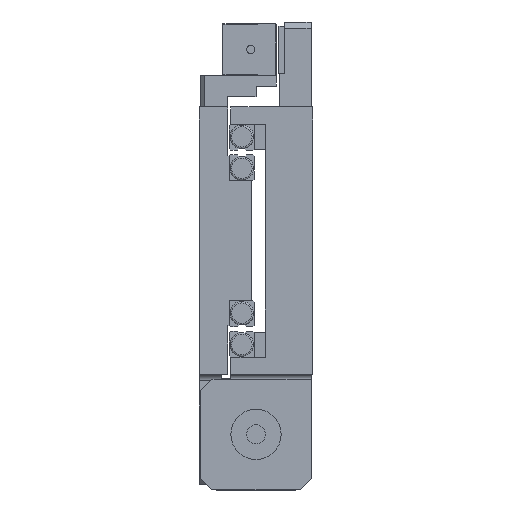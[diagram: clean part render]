
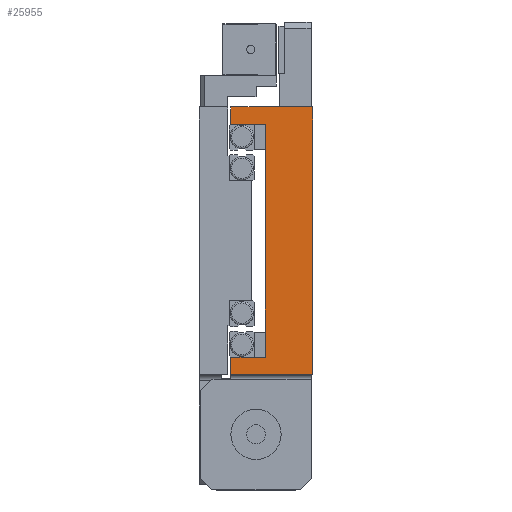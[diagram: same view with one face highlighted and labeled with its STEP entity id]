
A CAD part, left-side view. The second image highlights one B-rep face of the part: STEP entity #25955.
In plain terms, the highlighted planar face has unit normal (-1, 0, 0).
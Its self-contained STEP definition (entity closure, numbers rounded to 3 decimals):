
#154 = EDGE_CURVE ( 'NONE', #19481, #2991, #4059, .T. ) ;
#164 = LINE ( 'NONE', #8913, #2837 ) ;
#459 = FACE_OUTER_BOUND ( 'NONE', #6102, .T. ) ;
#751 = DIRECTION ( 'NONE',  ( 0., 0., 1. ) ) ;
#1219 = LINE ( 'NONE', #19326, #5375 ) ;
#1337 = ORIENTED_EDGE ( 'NONE', *, *, #21484, .F. ) ;
#1477 = EDGE_CURVE ( 'NONE', #26312, #19481, #6374, .T. ) ;
#2120 = DIRECTION ( 'NONE',  ( 0., -1., 0. ) ) ;
#2644 = ORIENTED_EDGE ( 'NONE', *, *, #14003, .T. ) ;
#2831 = ORIENTED_EDGE ( 'NONE', *, *, #21033, .F. ) ;
#2837 = VECTOR ( 'NONE', #19836, 1000. ) ;
#2991 = VERTEX_POINT ( 'NONE', #25395 ) ;
#3164 = DIRECTION ( 'NONE',  ( 1., 0., 0. ) ) ;
#3375 = AXIS2_PLACEMENT_3D ( 'NONE', #24855, #3164, #17990 ) ;
#3607 = EDGE_CURVE ( 'NONE', #7965, #26157, #5849, .T. ) ;
#4059 = LINE ( 'NONE', #4344, #20763 ) ;
#4234 = LINE ( 'NONE', #24325, #24247 ) ;
#4344 = CARTESIAN_POINT ( 'NONE',  ( -177.5, 18.5, 37. ) ) ;
#4539 = DIRECTION ( 'NONE',  ( 0., 1., 0. ) ) ;
#5375 = VECTOR ( 'NONE', #25767, 1000. ) ;
#5407 = DIRECTION ( 'NONE',  ( 0., 0., 1. ) ) ;
#5849 = LINE ( 'NONE', #23206, #5987 ) ;
#5987 = VECTOR ( 'NONE', #5407, 1000. ) ;
#6102 = EDGE_LOOP ( 'NONE', ( #13473, #2644, #21516, #1337, #24539, #2831, #24920, #16561 ) ) ;
#6374 = LINE ( 'NONE', #15134, #22883 ) ;
#7965 = VERTEX_POINT ( 'NONE', #14254 ) ;
#8717 = VERTEX_POINT ( 'NONE', #21609 ) ;
#8913 = CARTESIAN_POINT ( 'NONE',  ( -177.5, 0., -42.5 ) ) ;
#10440 = CARTESIAN_POINT ( 'NONE',  ( -177.5, 0., 42.5 ) ) ;
#12008 = EDGE_CURVE ( 'NONE', #8717, #26509, #1219, .T. ) ;
#12821 = DIRECTION ( 'NONE',  ( 0., 1., 0. ) ) ;
#13064 = CARTESIAN_POINT ( 'NONE',  ( -177.5, 26., -37. ) ) ;
#13473 = ORIENTED_EDGE ( 'NONE', *, *, #1477, .F. ) ;
#14003 = EDGE_CURVE ( 'NONE', #26312, #26157, #15470, .T. ) ;
#14254 = CARTESIAN_POINT ( 'NONE',  ( -177.5, 26., -42.5 ) ) ;
#14298 = EDGE_CURVE ( 'NONE', #2991, #19615, #4234, .T. ) ;
#15134 = CARTESIAN_POINT ( 'NONE',  ( -177.5, 15., -29. ) ) ;
#15470 = LINE ( 'NONE', #24216, #25194 ) ;
#15628 = LINE ( 'NONE', #17350, #23463 ) ;
#15658 = CARTESIAN_POINT ( 'NONE',  ( -177.5, 15., 37. ) ) ;
#16561 = ORIENTED_EDGE ( 'NONE', *, *, #154, .F. ) ;
#17350 = CARTESIAN_POINT ( 'NONE',  ( -177.5, 26., 42.5 ) ) ;
#17990 = DIRECTION ( 'NONE',  ( 0., 0., -1. ) ) ;
#19326 = CARTESIAN_POINT ( 'NONE',  ( -177.5, 0., 42.5 ) ) ;
#19481 = VERTEX_POINT ( 'NONE', #15658 ) ;
#19615 = VERTEX_POINT ( 'NONE', #25084 ) ;
#19750 = DIRECTION ( 'NONE',  ( 0., 0., 1. ) ) ;
#19836 = DIRECTION ( 'NONE',  ( 0., 1., 0. ) ) ;
#20293 = PLANE ( 'NONE',  #3375 ) ;
#20763 = VECTOR ( 'NONE', #12821, 1000. ) ;
#21033 = EDGE_CURVE ( 'NONE', #19615, #26509, #15628, .T. ) ;
#21484 = EDGE_CURVE ( 'NONE', #8717, #7965, #164, .T. ) ;
#21516 = ORIENTED_EDGE ( 'NONE', *, *, #3607, .F. ) ;
#21609 = CARTESIAN_POINT ( 'NONE',  ( -177.5, 0., -42.5 ) ) ;
#22394 = CARTESIAN_POINT ( 'NONE',  ( -177.5, 15., -37. ) ) ;
#22883 = VECTOR ( 'NONE', #751, 1000. ) ;
#23206 = CARTESIAN_POINT ( 'NONE',  ( -177.5, 26., 42.5 ) ) ;
#23463 = VECTOR ( 'NONE', #2120, 1000. ) ;
#24216 = CARTESIAN_POINT ( 'NONE',  ( -177.5, 18.5, -37. ) ) ;
#24247 = VECTOR ( 'NONE', #19750, 1000. ) ;
#24325 = CARTESIAN_POINT ( 'NONE',  ( -177.5, 26., 42.5 ) ) ;
#24539 = ORIENTED_EDGE ( 'NONE', *, *, #12008, .T. ) ;
#24855 = CARTESIAN_POINT ( 'NONE',  ( -177.5, 26., 42.5 ) ) ;
#24920 = ORIENTED_EDGE ( 'NONE', *, *, #14298, .F. ) ;
#25084 = CARTESIAN_POINT ( 'NONE',  ( -177.5, 26., 42.5 ) ) ;
#25194 = VECTOR ( 'NONE', #4539, 1000. ) ;
#25395 = CARTESIAN_POINT ( 'NONE',  ( -177.5, 26., 37. ) ) ;
#25767 = DIRECTION ( 'NONE',  ( 0., 0., 1. ) ) ;
#25955 = ADVANCED_FACE ( 'NONE', ( #459 ), #20293, .F. ) ;
#26157 = VERTEX_POINT ( 'NONE', #13064 ) ;
#26312 = VERTEX_POINT ( 'NONE', #22394 ) ;
#26509 = VERTEX_POINT ( 'NONE', #10440 ) ;
